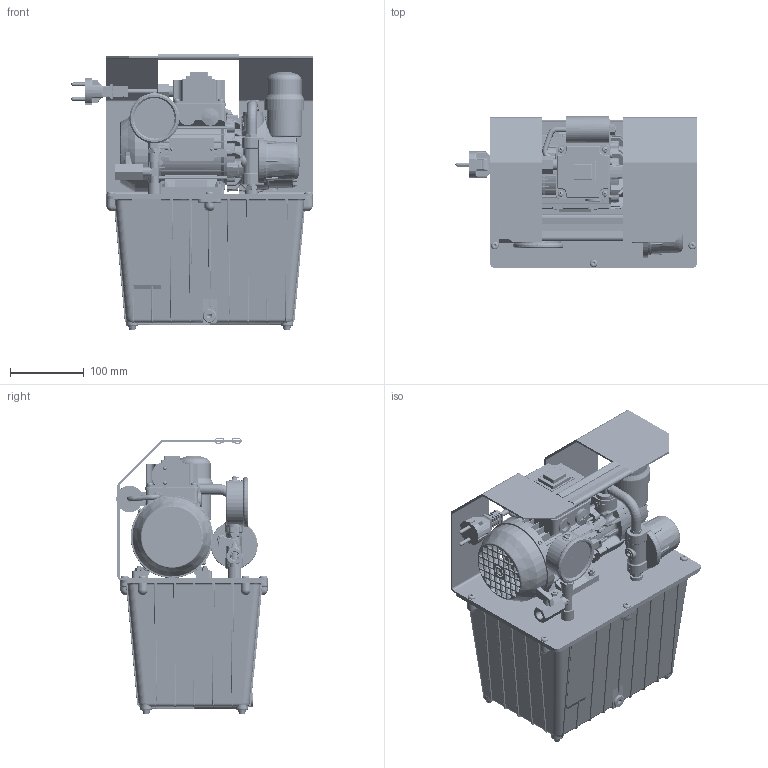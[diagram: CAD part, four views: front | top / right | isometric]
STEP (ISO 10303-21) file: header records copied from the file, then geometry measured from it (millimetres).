
FILE_DESCRIPTION(/* description */ (''),/* implementation_level */ '2;1');
FILE_NAME(/* name */ 'W:\RS\ArchivioGenerale\Lavori UT\SAT - STEP - DXF\9303053.MA-3D.stp',/* time_stamp */ '2017-01-17T12:07:05+01:00',/* author */ ('fabiomandrioli'),/* organization */ (''),/* preprocessor_version */ 'ST-DEVELOPER v16.1',/* originating_system */ 'Autodesk Inventor 2016',/* authorisation */ '');
FILE_SCHEMA (('CONFIG_CONTROL_DESIGN'));
Products named in the file (1): 9303053.MA-3D
Bounding box: 327.7 x 205.5 x 375.77 mm (x, y, z)
Volume: 2752992.8 mm3; surface area: 1024572.4 mm2
Topology: 9 solids, 102 shells, 6525 faces, 16342 edges, 10075 vertices
Faces by surface type: plane 2773, cylinder 1383, bspline 1232, cone 524, torus 412, sphere 201
Full cylindrical faces by diameter (mm): 1.5 x4, 2 x1, 2.5 x10, 3 x3, 3.2 x8, 3.242 x4, 3.5 x8, 3.621 x6, 4 x10, 4.134 x3, 4.5 x6, 4.917 x7, 5 x23, 5.3 x4, 6 x30, 6.647 x8, 7 x14, 8 x5, 8.5 x5, 8.566 x1, 8.75 x2, 8.848 x2, 9 x1, 9.25 x4, 9.7 x2, 10 x5, 10.5 x6, 11 x3, 11.4 x1, 11.445 x2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
Entity records: 234800 total; most frequent: CARTESIAN_POINT 84767, ORIENTED_EDGE 30884, DIRECTION 27845, EDGE_CURVE 15424, AXIS2_PLACEMENT_3D 10504, VERTEX_POINT 9855, EDGE_LOOP 7569, LINE 6837
